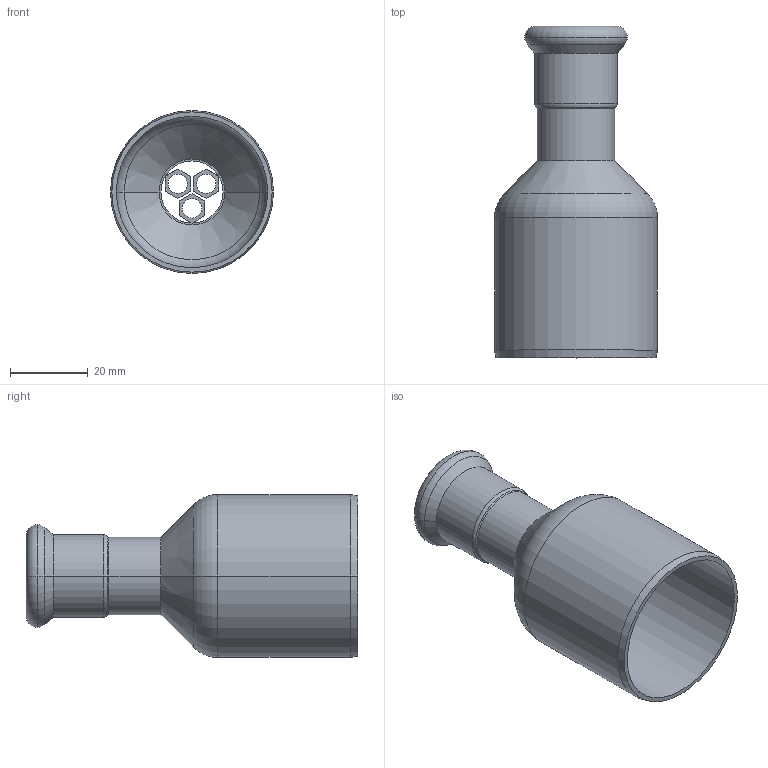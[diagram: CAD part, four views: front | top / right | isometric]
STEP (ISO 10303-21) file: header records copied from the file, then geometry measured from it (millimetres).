
FILE_DESCRIPTION(('OneSpaceDesigner STEP Export'),'2;1');
FILE_NAME('R2707 18x42.stp','2010-06-09T13:05:00',(''),(''),'OneSpace Designer STEP processor for AP214 (Solid Model)','OneSpace Modeling 15.00A 14-Mar-2007 (C) CoCreate Software GmbH','');
FILE_SCHEMA(('AUTOMOTIVE_DESIGN { 1 0 10303 214 1 1 1 1 }'));
Length unit declared in the file: millimetre
Products named in the file (2): R2707_18x42
Assembly tree (1 placements, depth 2):
  R2707_18x42
    R2707_18x42
Bounding box: 42 x 85.5 x 42 mm (x, y, z)
Volume: 14210.9 mm3; surface area: 18005.1 mm2
Topology: 1 solids, 1 shells, 77 faces, 181 edges, 112 vertices
Faces by surface type: plane 32, cylinder 25, cone 10, torus 10
Entity records: 1978 total; most frequent: ORIENTED_EDGE 362, CARTESIAN_POINT 314, DIRECTION 303, EDGE_CURVE 181, VERTEX_POINT 112, AXIS2_PLACEMENT_3D 101, VECTOR 101, LINE 101
